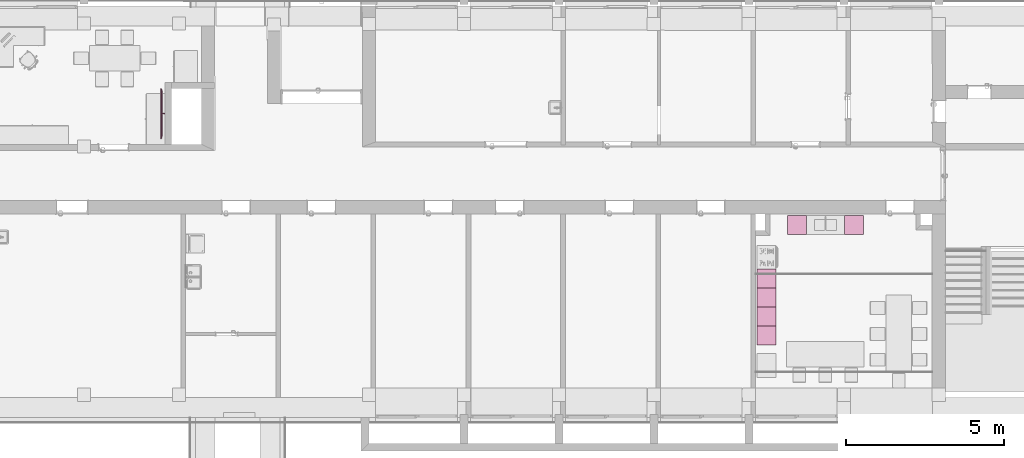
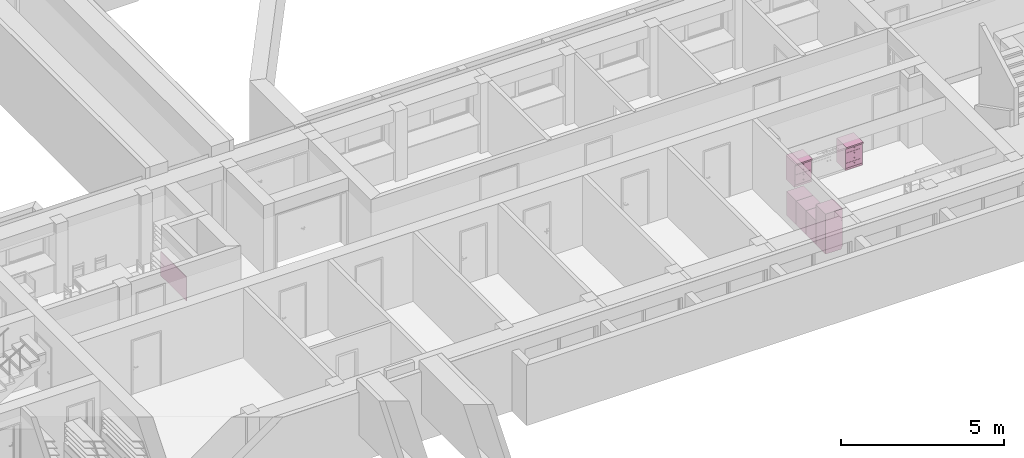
# One storey, part 93 of 127: 7 furnishings.
"""IFC2X3 building model written with IfcOpenShell, lengths in millimetres."""

from ifc_helpers import new_model, entity, si_unit, converted_unit, derived_unit, money_unit, direction, frame, origin_with_axes, place, context, subcontext, project, spatial, open_shell, faceted_brep, surface_model, source, transform, mapped, type_object, element, save


model = new_model("IFC2X3")

# Units and contexts
model_context = context("Model", 3, precision=1e-05, world=origin_with_axes(), true_north=direction((0.0, 1.0)))
body_context = subcontext(model_context, "Body", "Model", "MODEL_VIEW")
ifc_project = project(units=[si_unit("LENGTHUNIT", "METRE", prefix="MILLI"), si_unit("AREAUNIT", "SQUARE_METRE"), si_unit("VOLUMEUNIT", "CUBIC_METRE"), converted_unit("PLANEANGLEUNIT", "DEGREE", entity("IfcPlaneAngleMeasure", 0.0174532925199), si_unit("PLANEANGLEUNIT", "RADIAN"), dimensions=[0, 0, 0, 0, 0, 0, 0]), si_unit("SOLIDANGLEUNIT", "STERADIAN"), money_unit("EUR"), converted_unit("TIMEUNIT", "Year", entity("IfcTimeMeasure", 31556926.0), si_unit("TIMEUNIT", "SECOND"), dimensions=[0, 0, 1, 0, 0, 0, 0]), si_unit("MASSUNIT", "GRAM", prefix="KILO"), si_unit("THERMODYNAMICTEMPERATUREUNIT", "DEGREE_CELSIUS"), si_unit("LUMINOUSINTENSITYUNIT", "LUMEN"), si_unit("ENERGYUNIT", "JOULE", prefix="MEGA"), derived_unit("THERMALCONDUCTANCEUNIT", [(si_unit("POWERUNIT", "WATT"), 1), (si_unit("LENGTHUNIT", "METRE"), -1), (si_unit("THERMODYNAMICTEMPERATUREUNIT", "KELVIN"), -1)]), derived_unit("SPECIFICHEATCAPACITYUNIT", [(si_unit("ENERGYUNIT", "JOULE"), 1), (si_unit("MASSUNIT", "GRAM", prefix="KILO"), -1), (si_unit("THERMODYNAMICTEMPERATUREUNIT", "KELVIN"), -1)]), derived_unit("MASSDENSITYUNIT", [(si_unit("MASSUNIT", "GRAM", prefix="KILO"), 1), (si_unit("VOLUMEUNIT", "CUBIC_METRE"), -1)])], contexts=[model_context])

# Site, building, storey
site_placement = place(None, origin_with_axes())
site = spatial("IfcSite", under=ifc_project, at=site_placement, Name="Site", CompositionType="ELEMENT")
building_placement = place(site_placement, origin_with_axes())
building = spatial("IfcBuilding", under=site, at=building_placement, Name="Building", CompositionType="ELEMENT")
storey_placement = place(building_placement, origin_with_axes())
storey = spatial("IfcBuildingStorey", under=building, at=storey_placement, Name="1 KORRUS", CompositionType="ELEMENT", Elevation=0.0)

# Furnishings
furnishing_element_type_1 = type_object("IfcFurnishingElementType", Name="Flat Panel TV 22")
shared_shape_1 = source(origin_with_axes(), body_context, "Body", "Brep", [
    faceted_brep([(716.344350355, 60.0, 528.881197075), (716.344350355, 50.0, 528.881197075), (866.344350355, 50.0, 528.881197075), (866.344350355, 60.0, 528.881197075), (716.344350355, 60.0, 378.881197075), (716.344350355, 50.0, 378.881197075), (866.344350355, 50.0, 378.881197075), (866.344350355, 60.0, 378.881197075)], [[[0, 1, 2, 3]], [[4, 5, 1, 0]], [[1, 5, 6, 2]], [[3, 2, 6, 7]], [[0, 3, 7, 4]], [[7, 6, 5, 4]]]),
    faceted_brep([(641.344350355, 55.0, 358.881197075), (641.344350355, 50.0, 358.881197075), (641.344350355, 50.0, 378.881197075), (641.344350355, 55.0, 378.881197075), (941.344350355, 55.0, 358.881197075), (941.344350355, 50.0, 358.881197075), (941.344350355, 50.0, 378.881197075), (941.344350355, 55.0, 378.881197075)], [[[0, 1, 2, 3]], [[4, 5, 1, 0]], [[1, 5, 6, 2]], [[3, 2, 6, 7]], [[0, 3, 7, 4]], [[7, 6, 5, 4]]]),
    faceted_brep([(641.344350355, 55.0, 548.881197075), (641.344350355, 55.0, 528.881197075), (641.344350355, 50.0, 528.881197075), (641.344350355, 50.0, 548.881197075), (941.344350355, 55.0, 548.881197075), (941.344350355, 55.0, 528.881197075), (941.344350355, 50.0, 528.881197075), (941.344350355, 50.0, 548.881197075)], [[[0, 1, 2, 3]], [[0, 4, 5, 1]], [[1, 5, 6, 2]], [[3, 2, 6, 7]], [[4, 0, 3, 7]], [[5, 4, 7, 6]]]),
    faceted_brep([(656.344350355, 60.0, 341.381197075), (646.344350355, 60.0, 341.381197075), (646.344350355, 60.0, 566.381197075), (656.344350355, 60.0, 566.381197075), (656.344350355, 50.0, 303.881197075), (646.344350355, 50.0, 303.881197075), (646.344350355, 50.0, 603.881197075), (656.344350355, 50.0, 603.881197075)], [[[0, 1, 2, 3]], [[4, 5, 1, 0]], [[1, 5, 6, 2]], [[3, 2, 6, 7]], [[0, 3, 7, 4]], [[7, 6, 5, 4]]]),
    faceted_brep([(926.344350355, 60.0, 341.381197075), (926.344350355, 60.0, 566.381197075), (936.344350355, 60.0, 566.381197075), (936.344350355, 60.0, 341.381197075), (926.344350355, 50.0, 303.881197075), (926.344350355, 50.0, 603.881197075), (936.344350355, 50.0, 603.881197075), (936.344350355, 50.0, 303.881197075)], [[[0, 1, 2, 3]], [[0, 4, 5, 1]], [[1, 5, 6, 2]], [[3, 2, 6, 7]], [[4, 0, 3, 7]], [[5, 4, 7, 6]]]),
    faceted_brep([(803.844350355, 93.75, 466.381197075), (803.844350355, 93.75, 416.381197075), (803.090508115, 98.0252517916, 416.381197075), (803.090508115, 98.0252517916, 466.381197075), (803.090508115, 89.4747482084, 466.381197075), (803.090508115, 89.4747482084, 416.381197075), (800.919905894, 85.7151548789, 416.381197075), (797.594350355, 82.9246824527, 416.381197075), (793.514952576, 81.4399030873, 416.381197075), (789.173748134, 81.4399030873, 416.381197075), (785.094350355, 82.9246824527, 416.381197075), (781.768794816, 85.7151548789, 416.381197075), (779.598192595, 89.4747482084, 416.381197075), (778.844350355, 93.75, 416.381197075), (779.598192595, 98.0252517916, 416.381197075), (781.768794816, 101.784845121, 416.381197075), (785.094350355, 104.575317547, 416.381197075), (789.173748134, 106.060096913, 416.381197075), (793.514952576, 106.060096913, 416.381197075), (797.594350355, 104.575317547, 416.381197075), (800.919905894, 101.784845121, 416.381197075), (800.919905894, 101.784845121, 466.381197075), (797.594350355, 104.575317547, 466.381197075), (793.514952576, 106.060096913, 466.381197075), (789.173748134, 106.060096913, 466.381197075), (785.094350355, 104.575317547, 466.381197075), (781.768794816, 101.784845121, 466.381197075), (779.598192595, 98.0252517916, 466.381197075), (778.844350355, 93.75, 466.381197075), (779.598192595, 89.4747482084, 466.381197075), (781.768794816, 85.7151548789, 466.381197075), (785.094350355, 82.9246824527, 466.381197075), (789.173748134, 81.4399030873, 466.381197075), (793.514952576, 81.4399030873, 466.381197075), (797.594350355, 82.9246824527, 466.381197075), (800.919905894, 85.7151548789, 466.381197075)], [[[0, 1, 2, 3]], [[4, 5, 1, 0]], [[1, 5, 6, 7, 8, 9, 10, 11, 12, 13, 14, 15, 16, 17, 18, 19, 20, 2]], [[3, 2, 20, 21]], [[0, 3, 21, 22, 23, 24, 25, 26, 27, 28, 29, 30, 31, 32, 33, 34, 35, 4]], [[35, 6, 5, 4]], [[34, 7, 6, 35]], [[33, 8, 7, 34]], [[32, 9, 8, 33]], [[31, 10, 9, 32]], [[30, 11, 10, 31]], [[29, 12, 11, 30]], [[28, 13, 12, 29]], [[27, 14, 13, 28]], [[26, 15, 14, 27]], [[25, 16, 15, 26]], [[24, 17, 16, 25]], [[23, 18, 17, 24]], [[22, 19, 18, 23]], [[21, 20, 19, 22]]]),
    faceted_brep([(803.844350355, 93.75, 441.381197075), (803.844350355, 93.75, 466.381197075), (803.844350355, 60.0, 466.381197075), (803.844350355, 60.0, 441.381197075), (803.090508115, 89.4747482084, 466.381197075), (803.090508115, 89.4747482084, 441.381197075), (779.598192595, 89.4747482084, 466.381197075), (778.844350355, 93.75, 466.381197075), (778.844350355, 60.0, 466.381197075), (800.919905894, 85.7151548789, 466.381197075), (797.594350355, 82.9246824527, 466.381197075), (793.514952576, 81.4399030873, 466.381197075), (789.173748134, 81.4399030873, 466.381197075), (785.094350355, 82.9246824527, 466.381197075), (781.768794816, 85.7151548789, 466.381197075), (778.844350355, 60.0, 441.381197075), (778.844350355, 93.75, 441.381197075), (779.598192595, 89.4747482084, 441.381197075), (781.768794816, 85.7151548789, 441.381197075), (785.094350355, 82.9246824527, 441.381197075), (789.173748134, 81.4399030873, 441.381197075), (793.514952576, 81.4399030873, 441.381197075), (797.594350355, 82.9246824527, 441.381197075), (800.919905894, 85.7151548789, 441.381197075)], [[[0, 1, 2, 3]], [[4, 1, 0, 5]], [[6, 7, 8, 2, 1, 4, 9, 10, 11, 12, 13, 14]], [[3, 2, 8, 15]], [[5, 0, 3, 15, 16, 17, 18, 19, 20, 21, 22, 23]], [[9, 4, 5, 23]], [[7, 6, 17, 16]], [[7, 16, 15, 8]], [[10, 9, 23, 22]], [[11, 10, 22, 21]], [[12, 11, 21, 20]], [[13, 12, 20, 19]], [[14, 13, 19, 18]], [[6, 14, 18, 17]]]),
    faceted_brep([(800.919905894, 101.784845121, 441.381197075), (803.090508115, 98.0252517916, 441.381197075), (803.844350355, 93.75, 441.381197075), (803.844350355, 127.5, 441.381197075), (778.844350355, 127.5, 441.381197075), (778.844350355, 93.75, 441.381197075), (779.598192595, 98.0252517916, 441.381197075), (781.768794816, 101.784845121, 441.381197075), (785.094350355, 104.575317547, 441.381197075), (789.173748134, 106.060096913, 441.381197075), (793.514952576, 106.060096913, 441.381197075), (797.594350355, 104.575317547, 441.381197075), (800.919905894, 101.784845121, 416.381197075), (803.090508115, 98.0252517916, 416.381197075), (803.844350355, 93.75, 416.381197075), (803.844350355, 127.5, 416.381197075), (778.844350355, 127.5, 416.381197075), (778.844350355, 93.75, 416.381197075), (779.598192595, 98.0252517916, 416.381197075), (781.768794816, 101.784845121, 416.381197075), (785.094350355, 104.575317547, 416.381197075), (789.173748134, 106.060096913, 416.381197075), (793.514952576, 106.060096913, 416.381197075), (797.594350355, 104.575317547, 416.381197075)], [[[0, 1, 2, 3, 4, 5, 6, 7, 8, 9, 10, 11]], [[1, 0, 12, 13]], [[2, 1, 13, 14]], [[2, 14, 15, 3]], [[4, 3, 15, 16]], [[17, 5, 4, 16]], [[6, 5, 17, 18]], [[7, 6, 18, 19]], [[8, 7, 19, 20]], [[9, 8, 20, 21]], [[10, 9, 21, 22]], [[11, 10, 22, 23]], [[0, 11, 23, 12]], [[18, 17, 16, 15, 14, 13, 12, 23, 22, 21, 20, 19]]]),
    faceted_brep([(776.344350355, 127.5, 353.881197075), (776.344350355, 137.5, 353.881197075), (806.344350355, 137.5, 353.881197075), (806.344350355, 127.5, 353.881197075), (776.344350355, 127.5, 503.881197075), (776.344350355, 137.5, 503.881197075), (806.344350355, 137.5, 503.881197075), (806.344350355, 127.5, 503.881197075)], [[[0, 1, 2, 3]], [[4, 5, 1, 0]], [[1, 5, 6, 2]], [[3, 2, 6, 7]], [[0, 3, 7, 4]], [[7, 6, 5, 4]]]),
    faceted_brep([(1562.68870071, 0.0, 20.0), (1562.68870071, 1.0, 20.0), (1562.68870071, 1.0, 887.76239415), (1562.68870071, 0.0, 887.76239415), (20.0, 0.0, 20.0), (20.0, 1.0, 20.0), (20.0, 1.0, 887.76239415), (20.0, 0.0, 887.76239415)], [[[0, 1, 2, 3]], [[4, 5, 1, 0]], [[1, 5, 6, 2]], [[3, 2, 6, 7]], [[0, 3, 7, 4]], [[7, 6, 5, 4]]]),
    faceted_brep([(1582.68870071, 0.0, 907.76239415), (0.0, 0.0, 907.76239415), (0.0, 0.0, 0.0), (1582.68870071, 0.0, 0.0), (20.0, 0.0, 20.0), (20.0, 0.0, 887.76239415), (1562.68870071, 0.0, 887.76239415), (1562.68870071, 0.0, 20.0), (1582.68870095, 25.0, 907.762393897), (-3.89516308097e-07, 25.0, 907.762393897), (-3.89516308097e-07, 25.0, -3.89516363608e-07), (1582.68870095, 25.0, -3.89516363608e-07), (20.0, 1.0, 20.0), (20.0, 1.0, 887.76239415), (1562.68870071, 1.0, 887.76239415), (1562.68870071, 1.0, 20.0), (1489.38742937, 50.0000003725, 814.461122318), (93.30127119, 50.0000003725, 814.461122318), (93.30127119, 50.0000003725, 93.30127119), (1489.38742937, 50.0000003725, 93.30127119)], [[[0, 1, 2, 3], [4, 5, 6, 7]], [[8, 9, 1, 0]], [[9, 10, 2, 1]], [[10, 11, 3, 2]], [[11, 8, 0, 3]], [[5, 4, 12, 13]], [[6, 5, 13, 14]], [[7, 6, 14, 15]], [[4, 7, 15, 12]], [[16, 17, 9, 8]], [[17, 18, 10, 9]], [[18, 19, 11, 10]], [[19, 16, 8, 11]], [[14, 13, 12, 15]], [[16, 19, 18, 17]]]),
    faceted_brep([(791.344350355, -0.8, 5.0), (791.344350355, 0.0, 5.0), (807.171237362, 0.0, 10.0), (807.171237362, -0.8, 10.0), (775.517463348, -0.8, 10.0), (775.517463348, 0.0, 10.0), (633.075480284, 0.0, 15.0), (949.613220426, 0.0, 15.0), (949.613220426, -0.8, 15.0), (633.075480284, -0.8, 15.0)], [[[0, 1, 2, 3]], [[4, 5, 1, 0]], [[1, 5, 6, 7, 2]], [[3, 2, 7, 8]], [[0, 3, 8, 9, 4]], [[9, 6, 5, 4]], [[8, 7, 6, 9]]]),
    faceted_brep([(211.025160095, 10.0, 907.76239415), (211.025160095, 10.0, 909.36239415), (105.512580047, 10.0, 909.36239415), (105.512580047, 10.0, 907.76239415), (211.025160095, 16.25, 907.76239415), (211.025160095, 16.25, 909.36239415), (105.512580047, 16.25, 909.36239415), (105.512580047, 16.25, 907.76239415)], [[[0, 1, 2, 3]], [[0, 4, 5, 1]], [[1, 5, 6, 2]], [[2, 6, 7, 3]], [[3, 7, 4, 0]], [[7, 6, 5, 4]]]),
    faceted_brep([(324.074353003, 10.0, 907.76239415), (324.074353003, 10.0, 909.36239415), (218.561772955, 10.0, 909.36239415), (218.561772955, 10.0, 907.76239415), (324.074353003, 16.25, 907.76239415), (324.074353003, 16.25, 909.36239415), (218.561772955, 16.25, 909.36239415), (218.561772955, 16.25, 907.76239415)], [[[0, 1, 2, 3]], [[0, 4, 5, 1]], [[1, 5, 6, 2]], [[2, 6, 7, 3]], [[3, 7, 4, 0]], [[7, 6, 5, 4]]]),
    faceted_brep([(384.367255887, 10.0, 907.76239415), (384.367255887, 10.0, 909.36239415), (331.610965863, 10.0, 909.36239415), (331.610965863, 10.0, 907.76239415), (384.367255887, 16.25, 907.76239415), (384.367255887, 16.25, 909.36239415), (331.610965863, 16.25, 909.36239415), (331.610965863, 16.25, 907.76239415)], [[[0, 1, 2, 3]], [[0, 4, 5, 1]], [[1, 5, 6, 2]], [[2, 6, 7, 3]], [[3, 7, 4, 0]], [[7, 6, 5, 4]]]),
])
furnishing_1_placement = place(storey_placement, frame((36364.559717, 44642.909179, 886.409781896), z_axis=(0.0, 0.0, 1.0), x_axis=(0.000263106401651, -0.999999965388, 0.0)))
element("IfcFurnishingElement", 1, at=furnishing_1_placement, inside=storey, type_object=furnishing_element_type_1, Name="FU - 002", context=body_context, shape_type="MappedRepresentation", body=[
    mapped(shared_shape_1, transform((0.0, 0.0, 0.0))),
])
furnishing_element_type_2 = type_object("IfcFurnishingElementType", Name="Model Element 13")
shared_shape_2 = source(origin_with_axes(), body_context, "Body", "SurfaceModel", [
    faceted_brep([(0.0, 0.0, 1475.0), (600.0, 0.0, 1475.0), (600.0, 0.0, 1500.0), (0.0, 0.0, 1500.0), (0.0, 600.0, 1475.0), (600.0, 600.0, 1475.0), (600.0, 600.0, 1500.0), (0.0, 600.0, 1500.0)], [[[0, 1, 2, 3]], [[0, 4, 5, 1]], [[1, 5, 6, 2]], [[3, 2, 6, 7]], [[4, 0, 3, 7]], [[5, 4, 7, 6]]]),
    faceted_brep([(0.0, 65.0, 0.0), (600.0, 65.0, 0.0), (600.0, 65.0, 1475.0), (0.0, 65.0, 1475.0), (0.0, 600.0, 0.0), (600.0, 600.0, 0.0), (600.0, 600.0, 1475.0), (0.0, 600.0, 1475.0)], [[[0, 1, 2, 3]], [[0, 4, 5, 1]], [[1, 5, 6, 2]], [[3, 2, 6, 7]], [[4, 0, 3, 7]], [[5, 4, 7, 6]]]),
    faceted_brep([(0.0, 30.0, 0.0), (600.0, 30.0, 0.0), (600.0, 30.0, 90.0), (0.0, 30.0, 90.0), (0.0, 60.0, 0.0), (600.0, 60.0, 0.0), (600.0, 60.0, 90.0), (0.0, 60.0, 90.0)], [[[0, 1, 2, 3]], [[0, 4, 5, 1]], [[1, 5, 6, 2]], [[3, 2, 6, 7]], [[4, 0, 3, 7]], [[5, 4, 7, 6]]]),
    faceted_brep([(0.0, 60.0, 90.0), (600.0, 60.0, 90.0), (600.0, 0.0, 90.0), (0.0, 0.0, 90.0), (0.0, 60.0, 1069.5), (600.0, 60.0, 1069.5), (600.0, 0.0, 1069.5), (0.0, 0.0, 1069.5)], [[[0, 1, 2, 3]], [[0, 4, 5, 1]], [[1, 5, 6, 2]], [[3, 2, 6, 7]], [[4, 0, 3, 7]], [[5, 4, 7, 6]]]),
    faceted_brep([(0.0, 60.0, 1074.5), (600.0, 60.0, 1074.5), (600.0, 0.0, 1074.5), (0.0, 0.0, 1074.5), (0.0, 60.0, 1474.5), (600.0, 60.0, 1474.5), (600.0, 0.0, 1474.5), (0.0, 0.0, 1474.5)], [[[0, 1, 2, 3]], [[0, 4, 5, 1]], [[1, 5, 6, 2]], [[3, 2, 6, 7]], [[4, 0, 3, 7]], [[5, 4, 7, 6]]]),
    surface_model("IfcShellBasedSurfaceModel", [(600.0, -30.0, 869.5), (600.0, -30.0, 1069.5), (600.0, 0.0, 1069.5), (600.0, 0.0, 869.5)], [open_shell([[[0, 1, 2, 3]]])]),
    surface_model("IfcShellBasedSurfaceModel", [(600.0, -30.0, 869.5), (600.0, -30.0, 1069.5), (570.0, -30.0, 1069.5), (570.0, -30.0, 869.5)], [open_shell([[[0, 1, 2, 3]]])]),
    surface_model("IfcShellBasedSurfaceModel", [(600.0, -30.0, 1074.5), (600.0, -30.0, 1274.5), (600.0, 0.0, 1274.5), (600.0, 0.0, 1074.5)], [open_shell([[[0, 1, 2, 3]]])]),
    surface_model("IfcShellBasedSurfaceModel", [(600.0, -30.0, 1074.5), (600.0, -30.0, 1274.5), (570.0, -30.0, 1274.5), (570.0, -30.0, 1074.5)], [open_shell([[[0, 1, 2, 3]]])]),
])
furnishing_2_placement = place(storey_placement, frame((55806.141384, 36540.9385171, 0.0), z_axis=(0.0, 0.0, 1.0), x_axis=(0.0, 1.0, 0.0)))
element("IfcFurnishingElement", 2, at=furnishing_2_placement, inside=storey, type_object=furnishing_element_type_2, Name="FU - 010", context=body_context, shape_type="MappedRepresentation", body=[
    mapped(shared_shape_2, transform((0.0, 0.0, 0.0))),
])
furnishing_element_type_3 = type_object("IfcFurnishingElementType", Name="Model Element 9")
shared_shape_3 = source(origin_with_axes(), body_context, "Body", "Brep", [
    faceted_brep([(1.5, 70.0, 91.5), (598.5, 70.0, 91.5), (598.5, 50.0, 91.5), (1.5, 50.0, 91.5), (1.5, 70.0, 278.5), (598.5, 70.0, 278.5), (598.5, 50.0, 278.5), (1.5, 50.0, 278.5)], [[[0, 1, 2, 3]], [[0, 4, 5, 1]], [[1, 5, 6, 2]], [[3, 2, 6, 7]], [[4, 0, 3, 7]], [[5, 4, 7, 6]]]),
    faceted_brep([(295.407798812, 50.0, 203.91344561), (291.514718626, 50.0, 206.514718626), (288.91344561, 50.0, 210.407798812), (288.0, 50.0, 215.0), (288.91344561, 50.0, 219.592201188), (291.514718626, 50.0, 223.485281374), (295.407798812, 50.0, 226.08655439), (300.0, 50.0, 227.0), (304.592201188, 50.0, 226.08655439), (308.485281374, 50.0, 223.485281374), (311.08655439, 50.0, 219.592201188), (312.0, 50.0, 215.0), (311.08655439, 50.0, 210.407798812), (308.485281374, 50.0, 206.514718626), (304.592201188, 50.0, 203.91344561), (300.0, 50.0, 203.0), (295.407798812, 25.0, 203.91344561), (291.514718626, 25.0, 206.514718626), (288.91344561, 25.0, 210.407798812), (288.0, 25.0, 215.0), (288.91344561, 25.0, 219.592201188), (291.514718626, 25.0, 223.485281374), (295.407798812, 25.0, 226.08655439), (300.0, 25.0, 227.0), (304.592201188, 25.0, 226.08655439), (308.485281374, 25.0, 223.485281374), (311.08655439, 25.0, 219.592201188), (312.0, 25.0, 215.0), (311.08655439, 25.0, 210.407798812), (308.485281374, 25.0, 206.514718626), (304.592201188, 25.0, 203.91344561), (300.0, 25.0, 203.0)], [[[0, 1, 2, 3, 4, 5, 6, 7, 8, 9, 10, 11, 12, 13, 14, 15]], [[1, 0, 16, 17]], [[2, 1, 17, 18]], [[3, 2, 18, 19]], [[4, 3, 19, 20]], [[5, 4, 20, 21]], [[6, 5, 21, 22]], [[7, 6, 22, 23]], [[8, 7, 23, 24]], [[9, 8, 24, 25]], [[10, 9, 25, 26]], [[11, 10, 26, 27]], [[12, 11, 27, 28]], [[13, 12, 28, 29]], [[14, 13, 29, 30]], [[15, 14, 30, 31]], [[0, 15, 31, 16]], [[16, 31, 30, 29, 28, 27, 26, 25, 24, 23, 22, 21, 20, 19, 18, 17]]]),
    faceted_brep([(1.5, 70.0, 281.5), (598.5, 70.0, 281.5), (598.5, 50.0, 281.5), (1.5, 50.0, 281.5), (1.5, 70.0, 468.5), (598.5, 70.0, 468.5), (598.5, 50.0, 468.5), (1.5, 50.0, 468.5)], [[[0, 1, 2, 3]], [[0, 4, 5, 1]], [[1, 5, 6, 2]], [[3, 2, 6, 7]], [[4, 0, 3, 7]], [[5, 4, 7, 6]]]),
    faceted_brep([(295.407798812, 50.0, 393.91344561), (291.514718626, 50.0, 396.514718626), (288.91344561, 50.0, 400.407798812), (288.0, 50.0, 405.0), (288.91344561, 50.0, 409.592201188), (291.514718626, 50.0, 413.485281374), (295.407798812, 50.0, 416.08655439), (300.0, 50.0, 417.0), (304.592201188, 50.0, 416.08655439), (308.485281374, 50.0, 413.485281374), (311.08655439, 50.0, 409.592201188), (312.0, 50.0, 405.0), (311.08655439, 50.0, 400.407798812), (308.485281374, 50.0, 396.514718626), (304.592201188, 50.0, 393.91344561), (300.0, 50.0, 393.0), (295.407798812, 25.0, 393.91344561), (291.514718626, 25.0, 396.514718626), (288.91344561, 25.0, 400.407798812), (288.0, 25.0, 405.0), (288.91344561, 25.0, 409.592201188), (291.514718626, 25.0, 413.485281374), (295.407798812, 25.0, 416.08655439), (300.0, 25.0, 417.0), (304.592201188, 25.0, 416.08655439), (308.485281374, 25.0, 413.485281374), (311.08655439, 25.0, 409.592201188), (312.0, 25.0, 405.0), (311.08655439, 25.0, 400.407798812), (308.485281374, 25.0, 396.514718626), (304.592201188, 25.0, 393.91344561), (300.0, 25.0, 393.0)], [[[0, 1, 2, 3, 4, 5, 6, 7, 8, 9, 10, 11, 12, 13, 14, 15]], [[1, 0, 16, 17]], [[2, 1, 17, 18]], [[3, 2, 18, 19]], [[4, 3, 19, 20]], [[5, 4, 20, 21]], [[6, 5, 21, 22]], [[7, 6, 22, 23]], [[8, 7, 23, 24]], [[9, 8, 24, 25]], [[10, 9, 25, 26]], [[11, 10, 26, 27]], [[12, 11, 27, 28]], [[13, 12, 28, 29]], [[14, 13, 29, 30]], [[15, 14, 30, 31]], [[0, 15, 31, 16]], [[16, 31, 30, 29, 28, 27, 26, 25, 24, 23, 22, 21, 20, 19, 18, 17]]]),
    faceted_brep([(20.0, 70.0, 280.0), (580.0, 70.0, 280.0), (580.0, 70.0, 300.0), (20.0, 70.0, 300.0), (20.0, 580.0, 280.0), (580.0, 580.0, 280.0), (580.0, 580.0, 300.0), (20.0, 580.0, 300.0)], [[[0, 1, 2, 3]], [[0, 4, 5, 1]], [[1, 5, 6, 2]], [[3, 2, 6, 7]], [[4, 0, 3, 7]], [[5, 4, 7, 6]]]),
    faceted_brep([(1.5, 70.0, 471.5), (598.5, 70.0, 471.5), (598.5, 50.0, 471.5), (1.5, 50.0, 471.5), (1.5, 70.0, 658.5), (598.5, 70.0, 658.5), (598.5, 50.0, 658.5), (1.5, 50.0, 658.5)], [[[0, 1, 2, 3]], [[0, 4, 5, 1]], [[1, 5, 6, 2]], [[3, 2, 6, 7]], [[4, 0, 3, 7]], [[5, 4, 7, 6]]]),
    faceted_brep([(295.407798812, 50.0, 583.91344561), (291.514718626, 50.0, 586.514718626), (288.91344561, 50.0, 590.407798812), (288.0, 50.0, 595.0), (288.91344561, 50.0, 599.592201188), (291.514718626, 50.0, 603.485281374), (295.407798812, 50.0, 606.08655439), (300.0, 50.0, 607.0), (304.592201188, 50.0, 606.08655439), (308.485281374, 50.0, 603.485281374), (311.08655439, 50.0, 599.592201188), (312.0, 50.0, 595.0), (311.08655439, 50.0, 590.407798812), (308.485281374, 50.0, 586.514718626), (304.592201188, 50.0, 583.91344561), (300.0, 50.0, 583.0), (295.407798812, 25.0, 583.91344561), (291.514718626, 25.0, 586.514718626), (288.91344561, 25.0, 590.407798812), (288.0, 25.0, 595.0), (288.91344561, 25.0, 599.592201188), (291.514718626, 25.0, 603.485281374), (295.407798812, 25.0, 606.08655439), (300.0, 25.0, 607.0), (304.592201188, 25.0, 606.08655439), (308.485281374, 25.0, 603.485281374), (311.08655439, 25.0, 599.592201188), (312.0, 25.0, 595.0), (311.08655439, 25.0, 590.407798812), (308.485281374, 25.0, 586.514718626), (304.592201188, 25.0, 583.91344561), (300.0, 25.0, 583.0)], [[[0, 1, 2, 3, 4, 5, 6, 7, 8, 9, 10, 11, 12, 13, 14, 15]], [[1, 0, 16, 17]], [[2, 1, 17, 18]], [[3, 2, 18, 19]], [[4, 3, 19, 20]], [[5, 4, 20, 21]], [[6, 5, 21, 22]], [[7, 6, 22, 23]], [[8, 7, 23, 24]], [[9, 8, 24, 25]], [[10, 9, 25, 26]], [[11, 10, 26, 27]], [[12, 11, 27, 28]], [[13, 12, 28, 29]], [[14, 13, 29, 30]], [[15, 14, 30, 31]], [[0, 15, 31, 16]], [[16, 31, 30, 29, 28, 27, 26, 25, 24, 23, 22, 21, 20, 19, 18, 17]]]),
    faceted_brep([(20.0, 70.0, 470.0), (580.0, 70.0, 470.0), (580.0, 70.0, 490.0), (20.0, 70.0, 490.0), (20.0, 580.0, 470.0), (580.0, 580.0, 470.0), (580.0, 580.0, 490.0), (20.0, 580.0, 490.0)], [[[0, 1, 2, 3]], [[0, 4, 5, 1]], [[1, 5, 6, 2]], [[3, 2, 6, 7]], [[4, 0, 3, 7]], [[5, 4, 7, 6]]]),
    faceted_brep([(1.5, 70.0, 661.5), (598.5, 70.0, 661.5), (598.5, 50.0, 661.5), (1.5, 50.0, 661.5), (1.5, 70.0, 848.5), (598.5, 70.0, 848.5), (598.5, 50.0, 848.5), (1.5, 50.0, 848.5)], [[[0, 1, 2, 3]], [[0, 4, 5, 1]], [[1, 5, 6, 2]], [[3, 2, 6, 7]], [[4, 0, 3, 7]], [[5, 4, 7, 6]]]),
    faceted_brep([(295.407798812, 50.0, 773.91344561), (291.514718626, 50.0, 776.514718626), (288.91344561, 50.0, 780.407798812), (288.0, 50.0, 785.0), (288.91344561, 50.0, 789.592201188), (291.514718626, 50.0, 793.485281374), (295.407798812, 50.0, 796.08655439), (300.0, 50.0, 797.0), (304.592201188, 50.0, 796.08655439), (308.485281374, 50.0, 793.485281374), (311.08655439, 50.0, 789.592201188), (312.0, 50.0, 785.0), (311.08655439, 50.0, 780.407798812), (308.485281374, 50.0, 776.514718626), (304.592201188, 50.0, 773.91344561), (300.0, 50.0, 773.0), (295.407798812, 25.0, 773.91344561), (291.514718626, 25.0, 776.514718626), (288.91344561, 25.0, 780.407798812), (288.0, 25.0, 785.0), (288.91344561, 25.0, 789.592201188), (291.514718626, 25.0, 793.485281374), (295.407798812, 25.0, 796.08655439), (300.0, 25.0, 797.0), (304.592201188, 25.0, 796.08655439), (308.485281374, 25.0, 793.485281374), (311.08655439, 25.0, 789.592201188), (312.0, 25.0, 785.0), (311.08655439, 25.0, 780.407798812), (308.485281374, 25.0, 776.514718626), (304.592201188, 25.0, 773.91344561), (300.0, 25.0, 773.0)], [[[0, 1, 2, 3, 4, 5, 6, 7, 8, 9, 10, 11, 12, 13, 14, 15]], [[1, 0, 16, 17]], [[2, 1, 17, 18]], [[3, 2, 18, 19]], [[4, 3, 19, 20]], [[5, 4, 20, 21]], [[6, 5, 21, 22]], [[7, 6, 22, 23]], [[8, 7, 23, 24]], [[9, 8, 24, 25]], [[10, 9, 25, 26]], [[11, 10, 26, 27]], [[12, 11, 27, 28]], [[13, 12, 28, 29]], [[14, 13, 29, 30]], [[15, 14, 30, 31]], [[0, 15, 31, 16]], [[16, 31, 30, 29, 28, 27, 26, 25, 24, 23, 22, 21, 20, 19, 18, 17]]]),
    faceted_brep([(20.0, 70.0, 660.0), (580.0, 70.0, 660.0), (580.0, 70.0, 680.0), (20.0, 70.0, 680.0), (20.0, 580.0, 660.0), (580.0, 580.0, 660.0), (580.0, 580.0, 680.0), (20.0, 580.0, 680.0)], [[[0, 1, 2, 3]], [[0, 4, 5, 1]], [[1, 5, 6, 2]], [[3, 2, 6, 7]], [[4, 0, 3, 7]], [[5, 4, 7, 6]]]),
    faceted_brep([(0.0, 70.0, 0.0), (600.0, 70.0, 0.0), (600.0, 70.0, 90.0), (0.0, 70.0, 90.0), (0.0, 600.0, 0.0), (600.0, 600.0, 0.0), (600.0, 600.0, 90.0), (0.0, 600.0, 90.0)], [[[0, 1, 2, 3]], [[0, 4, 5, 1]], [[1, 5, 6, 2]], [[3, 2, 6, 7]], [[4, 0, 3, 7]], [[5, 4, 7, 6]]]),
    faceted_brep([(0.0, 70.0, 830.0), (20.0, 70.0, 830.0), (20.0, 70.0, 850.0), (0.0, 70.0, 850.0), (0.0, 600.0, 830.0), (20.0, 600.0, 830.0), (580.0, 600.0, 830.0), (600.0, 600.0, 830.0), (600.0, 70.0, 830.0), (580.0, 70.0, 830.0), (580.0, 70.0, 850.0), (600.0, 70.0, 850.0), (600.0, 600.0, 850.0), (580.0, 600.0, 850.0), (20.0, 600.0, 850.0), (0.0, 600.0, 850.0)], [[[0, 1, 2, 3]], [[0, 4, 5, 6, 7, 8, 9, 1]], [[1, 9, 10, 2]], [[3, 2, 10, 11, 12, 13, 14, 15]], [[4, 0, 3, 15]], [[5, 4, 15, 14]], [[6, 5, 14, 13]], [[7, 6, 13, 12]], [[8, 7, 12, 11]], [[9, 8, 11, 10]]]),
    faceted_brep([(0.0, 70.0, 90.0), (20.0, 70.0, 90.0), (20.0, 70.0, 110.0), (0.0, 70.0, 110.0), (0.0, 600.0, 90.0), (20.0, 600.0, 90.0), (580.0, 600.0, 90.0), (600.0, 600.0, 90.0), (600.0, 70.0, 90.0), (580.0, 70.0, 90.0), (580.0, 70.0, 110.0), (600.0, 70.0, 110.0), (600.0, 600.0, 110.0), (580.0, 600.0, 110.0), (20.0, 600.0, 110.0), (0.0, 600.0, 110.0)], [[[0, 1, 2, 3]], [[0, 4, 5, 6, 7, 8, 9, 1]], [[1, 9, 10, 2]], [[3, 2, 10, 11, 12, 13, 14, 15]], [[4, 0, 3, 15]], [[5, 4, 15, 14]], [[6, 5, 14, 13]], [[7, 6, 13, 12]], [[8, 7, 12, 11]], [[9, 8, 11, 10]]]),
    faceted_brep([(0.0, 70.0, 110.0), (20.0, 70.0, 110.0), (20.0, 70.0, 830.0), (0.0, 70.0, 830.0), (0.0, 600.0, 110.0), (600.0, 600.0, 110.0), (600.0, 70.0, 110.0), (580.0, 70.0, 110.0), (580.0, 580.0, 110.0), (20.0, 580.0, 110.0), (20.0, 580.0, 830.0), (580.0, 580.0, 830.0), (580.0, 70.0, 830.0), (600.0, 70.0, 830.0), (600.0, 600.0, 830.0), (0.0, 600.0, 830.0)], [[[0, 1, 2, 3]], [[0, 4, 5, 6, 7, 8, 9, 1]], [[1, 9, 10, 2]], [[3, 2, 10, 11, 12, 13, 14, 15]], [[4, 0, 3, 15]], [[5, 4, 15, 14]], [[6, 5, 14, 13]], [[7, 6, 13, 12]], [[8, 7, 12, 11]], [[9, 8, 11, 10]]]),
    faceted_brep([(0.0, 0.0, 850.0), (600.0, 0.0, 850.0), (600.0, 0.0, 900.0), (0.0, 0.0, 900.0), (0.0, 600.0, 850.0), (600.0, 600.0, 850.0), (600.0, 600.0, 900.0), (0.0, 600.0, 900.0)], [[[0, 1, 2, 3]], [[0, 4, 5, 1]], [[1, 5, 6, 2]], [[3, 2, 6, 7]], [[4, 0, 3, 7]], [[5, 4, 7, 6]]]),
])
for number, where, z_axis, x_axis, name in (
    (3, (55806.141384, 37140.9385172, 0.0), (0.0, 0.0, 1.0), (0.0, 1.0, 0.0), "FU - 007"),
    (4, (55806.141384, 37740.9385168, 0.0), (0.0, 0.0, 1.0), (0.0, 1.0, 0.0), "FU - 007"),
    (5, (55806.141384, 38340.9385169, 0.0), (0.0, 0.0, 1.0), (0.0, 1.0, 0.0), "FU - 007"),
    (6, (56161.831956, 40037.8138361, 0.0), (0.0, 0.0, 1.0), (1.0, 0.0, 0.0), "FU - 007"),
):
    element("IfcFurnishingElement", number, at=place(storey_placement, frame(where, z_axis=z_axis, x_axis=x_axis)), inside=storey, type_object=furnishing_element_type_3, Name=name, context=body_context, shape_type="MappedRepresentation", body=[
        mapped(shared_shape_3, transform((0.0, 0.0, 0.0))),
    ])
furnishing_element_type_4 = type_object("IfcFurnishingElementType", Name="Model Element 9")
furnishing_3_placement = place(storey_placement, frame((57961.8319559, 40037.8138361, 0.0), z_axis=(0.0, 0.0, 1.0), x_axis=(1.0, 0.0, 0.0)))
element("IfcFurnishingElement", 7, at=furnishing_3_placement, inside=storey, type_object=furnishing_element_type_4, Name="FU - 006", context=body_context, shape_type="MappedRepresentation", body=[
    mapped(shared_shape_3, transform((0.0, 0.0, 0.0))),
])

save(model, "model.ifc")
